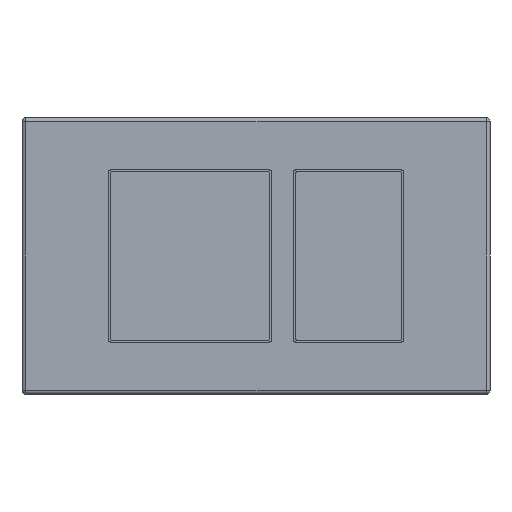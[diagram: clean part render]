
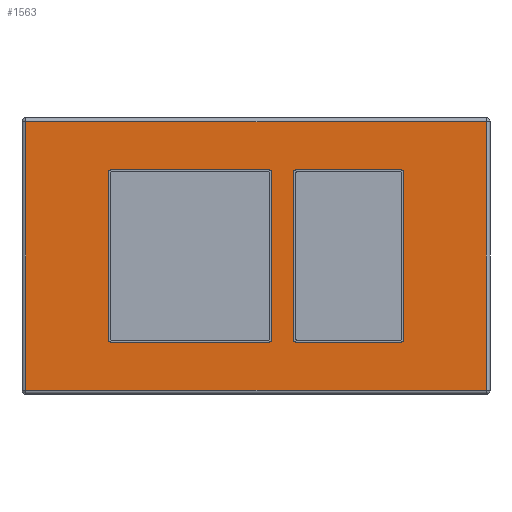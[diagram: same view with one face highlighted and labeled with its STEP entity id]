
A CAD part, front view. The second image highlights one B-rep face of the part: STEP entity #1563.
In plain terms, the highlighted free-form (B-spline) face has degree [1, 1] with [2, 2] control points.
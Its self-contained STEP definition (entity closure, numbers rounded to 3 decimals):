
#1563=ADVANCED_FACE('',(#4265,#4266,#4267),#4268,.T.);
#1811=VERTEX_POINT('',#4518);
#1813=VERTEX_POINT('',#4520);
#1815=EDGE_CURVE('',#1811,#1813,#4522,.T.);
#1821=VERTEX_POINT('',#4528);
#1823=EDGE_CURVE('',#1811,#1821,#4530,.T.);
#1827=VERTEX_POINT('',#4534);
#1829=EDGE_CURVE('',#1827,#1821,#4536,.T.);
#1833=VERTEX_POINT('',#4540);
#1835=EDGE_CURVE('',#1827,#1833,#4542,.T.);
#1839=VERTEX_POINT('',#4546);
#1841=EDGE_CURVE('',#1839,#1833,#4548,.T.);
#1845=VERTEX_POINT('',#4552);
#1847=EDGE_CURVE('',#1839,#1845,#4554,.T.);
#1851=VERTEX_POINT('',#4558);
#1853=EDGE_CURVE('',#1851,#1845,#4560,.T.);
#1857=EDGE_CURVE('',#1851,#1813,#4564,.T.);
#1907=VERTEX_POINT('',#4614);
#1917=VERTEX_POINT('',#4624);
#1921=EDGE_CURVE('',#1907,#1917,#4628,.T.);
#1931=VERTEX_POINT('',#4638);
#1935=EDGE_CURVE('',#1917,#1931,#4642,.T.);
#1945=VERTEX_POINT('',#4652);
#1949=EDGE_CURVE('',#1931,#1945,#4656,.T.);
#1961=EDGE_CURVE('',#1945,#1907,#4668,.T.);
#1963=VERTEX_POINT('',#4670);
#1965=VERTEX_POINT('',#4672);
#1967=EDGE_CURVE('',#1963,#1965,#4674,.T.);
#1983=VERTEX_POINT('',#4690);
#1987=EDGE_CURVE('',#1983,#1965,#4694,.T.);
#1989=VERTEX_POINT('',#4696);
#1991=EDGE_CURVE('',#1983,#1989,#4698,.T.);
#1999=VERTEX_POINT('',#4706);
#2001=EDGE_CURVE('',#1999,#1989,#4708,.T.);
#2009=VERTEX_POINT('',#4716);
#2011=EDGE_CURVE('',#1999,#2009,#4718,.T.);
#2023=VERTEX_POINT('',#4730);
#2027=EDGE_CURVE('',#2023,#2009,#4734,.T.);
#2029=VERTEX_POINT('',#4736);
#2031=EDGE_CURVE('',#2023,#2029,#4738,.T.);
#2041=EDGE_CURVE('',#1963,#2029,#4748,.T.);
#4265=FACE_OUTER_BOUND('',#9177,.T.);
#4266=FACE_BOUND('',#9178,.T.);
#4267=FACE_BOUND('',#9179,.T.);
#4268=B_SPLINE_SURFACE_WITH_KNOTS('',1,1,((#9180,#9181),(#9182,#9183)),.UNSPECIFIED.,.F.,.F.,.F.,(2,2),(2,2),(0.002,0.998),(0.004,0.996),.UNSPECIFIED.);
#4518=CARTESIAN_POINT('',(69.684,-11.06,-38.981));
#4520=CARTESIAN_POINT('',(68.184,-11.06,-40.481));
#4522=CIRCLE('',#9969,1.5);
#4528=CARTESIAN_POINT('',(69.684,-11.06,39.019));
#4530=LINE('',#9982,#9983);
#4534=CARTESIAN_POINT('',(68.184,-11.06,40.519));
#4536=CIRCLE('',#9992,1.5);
#4540=CARTESIAN_POINT('',(19.184,-11.06,40.519));
#4542=LINE('',#10001,#10002);
#4546=CARTESIAN_POINT('',(17.684,-11.06,39.019));
#4548=CIRCLE('',#10011,1.5);
#4552=CARTESIAN_POINT('',(17.684,-11.06,-38.981));
#4554=LINE('',#10020,#10021);
#4558=CARTESIAN_POINT('',(19.184,-11.06,-40.481));
#4560=CIRCLE('',#10030,1.5);
#4564=LINE('',#10037,#10038);
#4614=CARTESIAN_POINT('',(108.384,-11.06,-63.181));
#4624=CARTESIAN_POINT('',(108.384,-11.06,63.219));
#4628=LINE('',#10135,#10136);
#4638=CARTESIAN_POINT('',(-108.016,-11.06,63.219));
#4642=LINE('',#10155,#10156);
#4652=CARTESIAN_POINT('',(-108.016,-11.06,-63.181));
#4656=LINE('',#10175,#10176);
#4668=LINE('',#10193,#10194);
#4670=CARTESIAN_POINT('',(6.184,-11.06,40.519));
#4672=CARTESIAN_POINT('',(7.684,-11.06,39.019));
#4674=CIRCLE('',#10201,1.5);
#4690=CARTESIAN_POINT('',(7.684,-11.06,-38.981));
#4694=LINE('',#10231,#10232);
#4696=CARTESIAN_POINT('',(6.184,-11.06,-40.481));
#4698=CIRCLE('',#10237,1.5);
#4706=CARTESIAN_POINT('',(-67.816,-11.06,-40.481));
#4708=LINE('',#10251,#10252);
#4716=CARTESIAN_POINT('',(-69.316,-11.06,-38.981));
#4718=CIRCLE('',#10267,1.5);
#4730=CARTESIAN_POINT('',(-69.316,-11.06,39.019));
#4734=LINE('',#10291,#10292);
#4736=CARTESIAN_POINT('',(-67.816,-11.06,40.519));
#4738=CIRCLE('',#10297,1.5);
#4748=LINE('',#10313,#10314);
#9177=EDGE_LOOP('',(#14473,#14474,#14475,#14476));
#9178=EDGE_LOOP('',(#14477,#14478,#14479,#14480,#14481,#14482,#14483,#14484));
#9179=EDGE_LOOP('',(#14485,#14486,#14487,#14488,#14489,#14490,#14491,#14492));
#9180=CARTESIAN_POINT('',(108.098,-11.06,71.098));
#9181=CARTESIAN_POINT('',(112.987,-11.06,-63.014));
#9182=CARTESIAN_POINT('',(-112.62,-11.06,63.052));
#9183=CARTESIAN_POINT('',(-107.731,-11.06,-71.061));
#9969=AXIS2_PLACEMENT_3D('',#14646,#14647,#14648);
#9982=CARTESIAN_POINT('',(69.684,-11.06,-38.981));
#9983=VECTOR('',#14651,1.0);
#9992=AXIS2_PLACEMENT_3D('',#14653,#14654,#14655);
#10001=CARTESIAN_POINT('',(68.184,-11.06,40.519));
#10002=VECTOR('',#14657,1.0);
#10011=AXIS2_PLACEMENT_3D('',#14659,#14660,#14661);
#10020=CARTESIAN_POINT('',(17.684,-11.06,39.019));
#10021=VECTOR('',#14663,1.0);
#10030=AXIS2_PLACEMENT_3D('',#14665,#14666,#14667);
#10037=CARTESIAN_POINT('',(19.184,-11.06,-40.481));
#10038=VECTOR('',#14669,1.0);
#10135=CARTESIAN_POINT('',(108.384,-11.06,-63.181));
#10136=VECTOR('',#14701,1.0);
#10155=CARTESIAN_POINT('',(108.384,-11.06,63.219));
#10156=VECTOR('',#14709,1.0);
#10175=CARTESIAN_POINT('',(-108.016,-11.06,63.219));
#10176=VECTOR('',#14717,1.0);
#10193=CARTESIAN_POINT('',(-108.016,-11.06,-63.181));
#10194=VECTOR('',#14725,1.0);
#10201=AXIS2_PLACEMENT_3D('',#14726,#14727,#14728);
#10231=CARTESIAN_POINT('',(7.684,-11.06,-38.981));
#10232=VECTOR('',#14736,1.0);
#10237=AXIS2_PLACEMENT_3D('',#14737,#14738,#14739);
#10251=CARTESIAN_POINT('',(-67.816,-11.06,-40.481));
#10252=VECTOR('',#14744,1.0);
#10267=AXIS2_PLACEMENT_3D('',#14747,#14748,#14749);
#10291=CARTESIAN_POINT('',(-69.316,-11.06,39.019));
#10292=VECTOR('',#14756,1.0);
#10297=AXIS2_PLACEMENT_3D('',#14757,#14758,#14759);
#10313=CARTESIAN_POINT('',(6.184,-11.06,40.519));
#10314=VECTOR('',#14765,1.0);
#14473=ORIENTED_EDGE('',*,*,#1921,.T.);
#14474=ORIENTED_EDGE('',*,*,#1935,.T.);
#14475=ORIENTED_EDGE('',*,*,#1949,.T.);
#14476=ORIENTED_EDGE('',*,*,#1961,.T.);
#14477=ORIENTED_EDGE('',*,*,#1815,.T.);
#14478=ORIENTED_EDGE('',*,*,#1857,.F.);
#14479=ORIENTED_EDGE('',*,*,#1853,.T.);
#14480=ORIENTED_EDGE('',*,*,#1847,.F.);
#14481=ORIENTED_EDGE('',*,*,#1841,.T.);
#14482=ORIENTED_EDGE('',*,*,#1835,.F.);
#14483=ORIENTED_EDGE('',*,*,#1829,.T.);
#14484=ORIENTED_EDGE('',*,*,#1823,.F.);
#14485=ORIENTED_EDGE('',*,*,#1967,.T.);
#14486=ORIENTED_EDGE('',*,*,#1987,.F.);
#14487=ORIENTED_EDGE('',*,*,#1991,.T.);
#14488=ORIENTED_EDGE('',*,*,#2001,.F.);
#14489=ORIENTED_EDGE('',*,*,#2011,.T.);
#14490=ORIENTED_EDGE('',*,*,#2027,.F.);
#14491=ORIENTED_EDGE('',*,*,#2031,.T.);
#14492=ORIENTED_EDGE('',*,*,#2041,.F.);
#14646=CARTESIAN_POINT('',(68.184,-11.06,-38.981));
#14647=DIRECTION('',(0.0,1.0,0.0));
#14648=DIRECTION('',(1.0,0.0,0.));
#14651=DIRECTION('',(0.0,0.0,1.0));
#14653=CARTESIAN_POINT('',(68.184,-11.06,39.019));
#14654=DIRECTION('',(0.0,1.0,-0.0));
#14655=DIRECTION('',(0.,0.0,1.0));
#14657=DIRECTION('',(-1.0,0.0,-0.0));
#14659=CARTESIAN_POINT('',(19.184,-11.06,39.019));
#14660=DIRECTION('',(0.,1.0,0.));
#14661=DIRECTION('',(-1.0,0.,0.));
#14663=DIRECTION('',(0.0,0.0,-1.0));
#14665=CARTESIAN_POINT('',(19.184,-11.06,-38.981));
#14666=DIRECTION('',(0.0,1.0,0.0));
#14667=DIRECTION('',(0.,0.0,-1.0));
#14669=DIRECTION('',(1.0,0.0,0.0));
#14701=DIRECTION('',(0.,0.0,1.0));
#14709=DIRECTION('',(-1.0,0.0,0.));
#14717=DIRECTION('',(0.,0.0,-1.0));
#14725=DIRECTION('',(1.0,0.0,0.));
#14726=CARTESIAN_POINT('',(6.184,-11.06,39.019));
#14727=DIRECTION('',(0.0,1.0,-0.0));
#14728=DIRECTION('',(0.,0.0,1.0));
#14736=DIRECTION('',(0.0,0.0,1.0));
#14737=CARTESIAN_POINT('',(6.184,-11.06,-38.981));
#14738=DIRECTION('',(-0.0,1.0,0.0));
#14739=DIRECTION('',(1.0,0.0,0.));
#14744=DIRECTION('',(1.0,0.0,0.0));
#14747=CARTESIAN_POINT('',(-67.816,-11.06,-38.981));
#14748=DIRECTION('',(0.0,1.0,0.0));
#14749=DIRECTION('',(0.,0.0,-1.0));
#14756=DIRECTION('',(0.0,0.0,-1.0));
#14757=CARTESIAN_POINT('',(-67.816,-11.06,39.019));
#14758=DIRECTION('',(0.,1.0,0.));
#14759=DIRECTION('',(-1.0,0.,0.));
#14765=DIRECTION('',(-1.0,0.0,-0.0));
